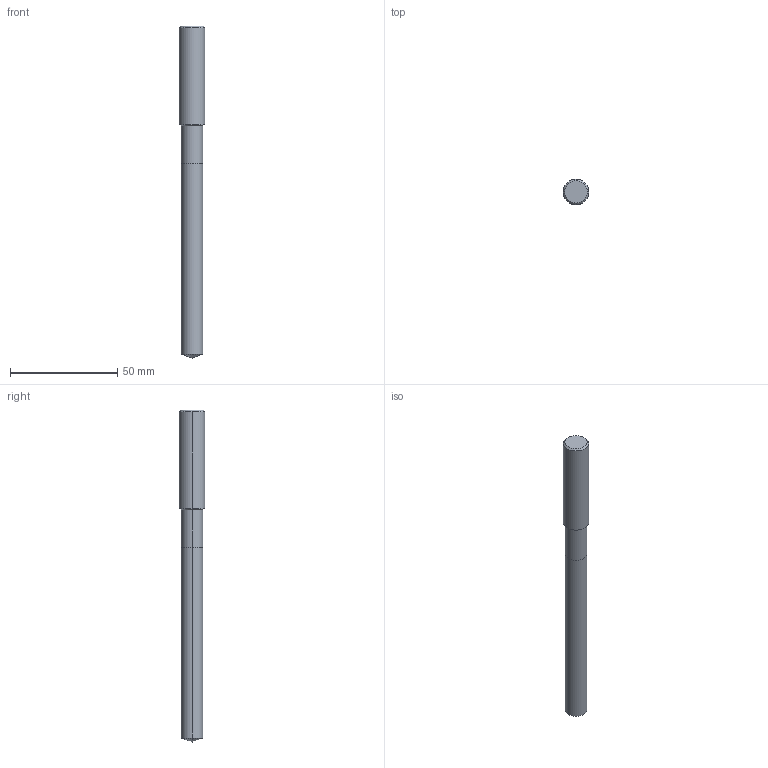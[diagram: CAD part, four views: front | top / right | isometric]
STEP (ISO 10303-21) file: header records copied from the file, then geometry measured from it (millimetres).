
FILE_DESCRIPTION(('STEP AP214'),'1');
FILE_NAME('cctmp_A1A2D430-C720-4072-BEDE-52788E91B9A3_2020_11_02_13_41_03_0698..stp','2020-11-02T12:41:03',('Meusburger Georg GmbH & Co KG'),('CADClick - www.CADClick.com'),'Spatial InterOp 3D',' ','unknown authorization');
FILE_SCHEMA(('AUTOMOTIVE_DESIGN { 1 0 10303 214 1 1 1 1 }'));
Length unit declared in the file: millimetre
Products named in the file (1): WZB10223_10.2
Bounding box: 12 x 12 x 155 mm (x, y, z)
Volume: 14002 mm3; surface area: 5367.8 mm2
Topology: 1 solids, 1 shells, 14 faces, 28 edges, 15 vertices
Faces by surface type: cylinder 6, cone 6, plane 2
Entity records: 484 total; most frequent: DIRECTION 70, CARTESIAN_POINT 56, ORIENTED_EDGE 52, AXIS2_PLACEMENT_3D 29, EDGE_CURVE 26, STYLED_ITEM 15, PRESENTATION_STYLE_ASSIGNMENT 15, SURFACE_STYLE_USAGE 15
